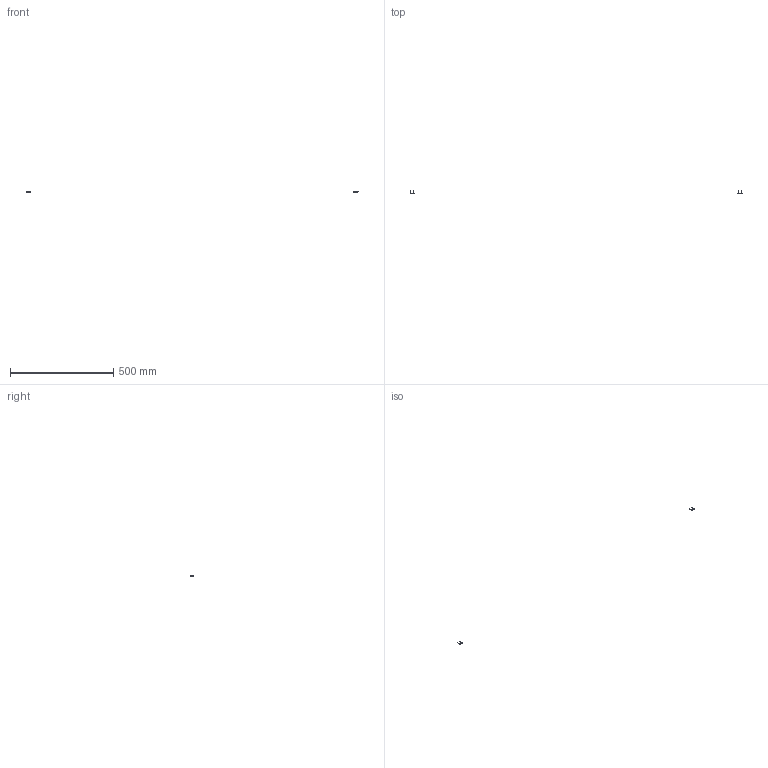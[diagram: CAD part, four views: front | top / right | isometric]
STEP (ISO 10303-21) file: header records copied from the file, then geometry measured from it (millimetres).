
FILE_DESCRIPTION(/* description */ (''),/* implementation_level */ '2;1');
FILE_NAME(/* name */ '4.frame-door#4.8#CB3-16',/* time_stamp */ '2014-12-01T20:13:03+01:00',/* author */ (''),/* organization */ (''),/* preprocessor_version */ 'ST-DEVELOPER v14',/* originating_system */ '',/* authorisation */ '');
FILE_SCHEMA (('AUTOMOTIVE_DESIGN'));
Length unit declared in the file: millimetre
Products named in the file (2): Document; screw DIN912-like, M3x16
Assembly tree (2 placements, depth 2):
  Document
    screw DIN912-like, M3x16  x2
Bounding box: 1607.22 x 19 x 5.5 mm (x, y, z)
Volume: 698.6 mm3; surface area: 1033.9 mm2
Topology: 4 solids, 4 shells, 100 faces, 224 edges, 132 vertices
Faces by surface type: plane 60, bspline 40
Entity records: 4125 total; most frequent: CARTESIAN_POINT 1889, B_SPLINE_CURVE_WITH_KNOTS 378, ORIENTED_EDGE 324, PCURVE 324, DEFINITIONAL_REPRESENTATION 324, SURFACE_CURVE 162, EDGE_CURVE 162, VERTEX_POINT 99
